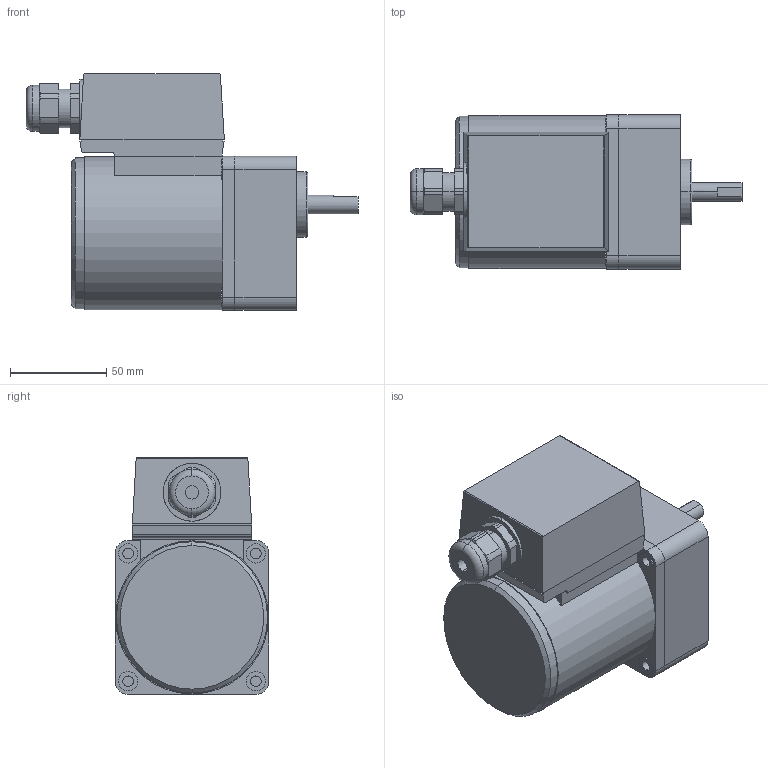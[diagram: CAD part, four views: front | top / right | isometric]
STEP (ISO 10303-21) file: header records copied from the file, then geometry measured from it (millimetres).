
FILE_DESCRIPTION(('starvars output'),'2;1');
FILE_NAME('4RK25GN-CW2TE _ 4GN3.6SA.stp','13:43:01 2015/05/11',( 'Thomas Industrial Network Germany GmbH'),( 'Thomas Industrial Network Germany GmbH'),'unknown preprocess','ACIS' ,'unknown authorization');
FILE_SCHEMA(('AUTOMOTIVE_DESIGN_CC2 {UNKNOWN IMPLEMENTATION LEVEL}'));
Length unit declared in the file: millimetre
Products named in the file (1): PRODUCT_ID_1667
Bounding box: 172.62 x 80 x 123 mm (x, y, z)
Volume: 861476.6 mm3; surface area: 74138.7 mm2
Topology: 2 solids, 2 shells, 164 faces, 392 edges, 256 vertices
Faces by surface type: plane 76, cylinder 74, torus 12, cone 2
Entity records: 5728 total; most frequent: CARTESIAN_POINT 851, ORIENTED_EDGE 784, DIRECTION 642, EDGE_CURVE 392, VERTEX_POINT 256, AXIS2_PLACEMENT_3D 215, VECTOR 212, LINE 212
